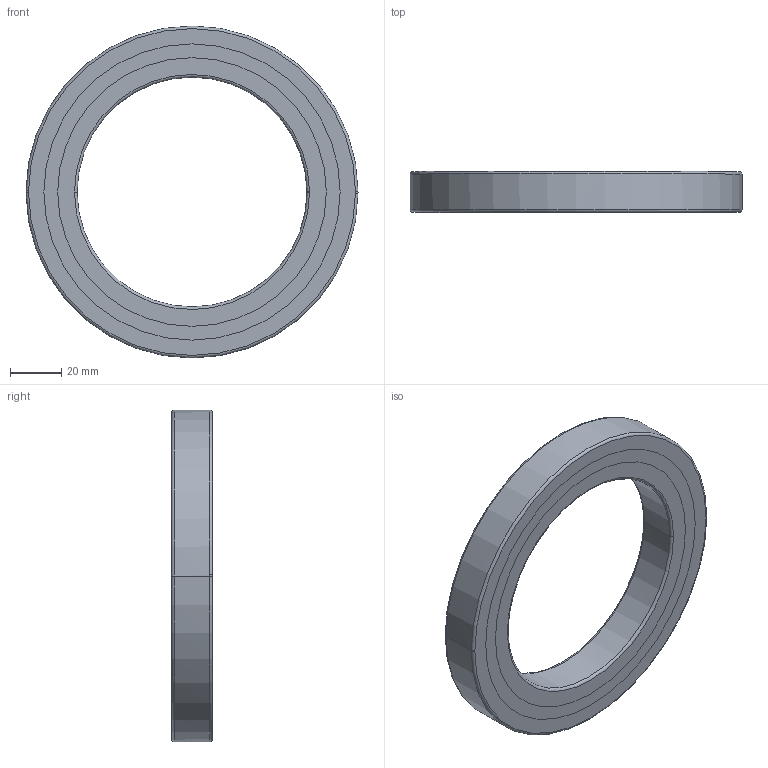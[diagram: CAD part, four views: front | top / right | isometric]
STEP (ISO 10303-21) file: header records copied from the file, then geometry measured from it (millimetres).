
FILE_DESCRIPTION(('no description'),'unknown implementation level');
FILE_NAME('CRBC09016_97.stp',' ',('HIWIN GmbH'),('CADClick - KiM GmbH - www.kimweb.de'),'unknown preprocess','ACIS','unknown authorization');
FILE_SCHEMA(('automotive_design'));
Length unit declared in the file: millimetre
Products named in the file (4): CRBC09016_1; CRBC09016_2; CRBC09016_3; CRBC09016
Bounding box: 130 x 16 x 130 mm (x, y, z)
Volume: 85895.7 mm3; surface area: 41244.2 mm2
Topology: 4 solids, 4 shells, 40 faces, 88 edges, 56 vertices
Faces by surface type: cylinder 16, torus 16, plane 8
Entity records: 2289 total; most frequent: DIRECTION 248, STYLED_ITEM 188, PRESENTATION_STYLE_ASSIGNMENT 188, CARTESIAN_POINT 188, COLOUR_RGB 188, ORIENTED_EDGE 176, AXIS2_PLACEMENT_3D 116, EDGE_CURVE 88
